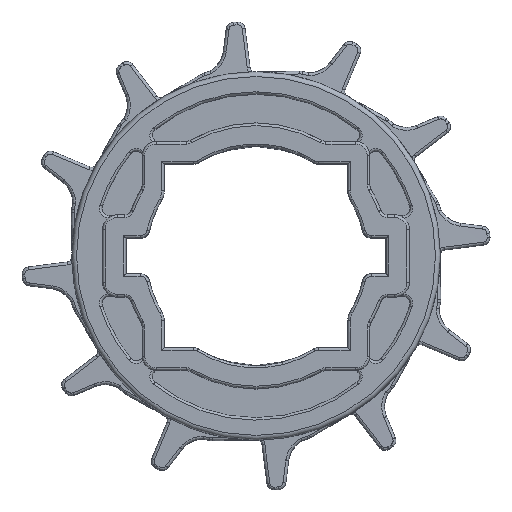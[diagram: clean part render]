
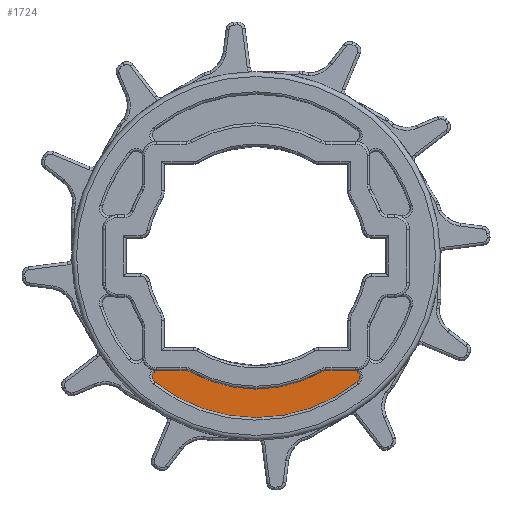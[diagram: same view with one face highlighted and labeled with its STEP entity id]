
A CAD part, top view. The second image highlights one B-rep face of the part: STEP entity #1724.
In plain terms, the highlighted planar face has unit normal (0, 0, 1).
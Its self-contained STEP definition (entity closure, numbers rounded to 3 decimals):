
#744=CIRCLE('',#15463,1.751);
#746=CIRCLE('',#15466,28.487);
#748=CIRCLE('',#15469,1.751);
#780=CIRCLE('',#15529,1.492);
#781=CIRCLE('',#15530,34.584);
#782=CIRCLE('',#15531,1.492);
#1724=ADVANCED_FACE('',(#2799),#2548,.T.);
#2548=PLANE('',#15532);
#2799=FACE_OUTER_BOUND('',#3693,.T.);
#3693=EDGE_LOOP('',(#6180,#6181,#6182,#6183,#6184,#6185,#6186,#6187));
#6180=ORIENTED_EDGE('',*,*,#12320,.T.);
#6181=ORIENTED_EDGE('',*,*,#12321,.T.);
#6182=ORIENTED_EDGE('',*,*,#12322,.F.);
#6183=ORIENTED_EDGE('',*,*,#11966,.F.);
#6184=ORIENTED_EDGE('',*,*,#12242,.F.);
#6185=ORIENTED_EDGE('',*,*,#12245,.T.);
#6186=ORIENTED_EDGE('',*,*,#12247,.F.);
#6187=ORIENTED_EDGE('',*,*,#11962,.T.);
#10454=VERTEX_POINT('',#19900);
#10455=VERTEX_POINT('',#19902);
#10458=VERTEX_POINT('',#19909);
#10459=VERTEX_POINT('',#19911);
#10663=VERTEX_POINT('',#21258);
#10665=VERTEX_POINT('',#21264);
#10708=VERTEX_POINT('',#21427);
#10709=VERTEX_POINT('',#21429);
#11962=EDGE_CURVE('',#10455,#10454,#14361,.T.);
#11966=EDGE_CURVE('',#10458,#10459,#14365,.T.);
#12242=EDGE_CURVE('',#10663,#10458,#744,.T.);
#12245=EDGE_CURVE('',#10663,#10665,#746,.T.);
#12247=EDGE_CURVE('',#10455,#10665,#748,.T.);
#12320=EDGE_CURVE('',#10454,#10708,#780,.T.);
#12321=EDGE_CURVE('',#10708,#10709,#781,.T.);
#12322=EDGE_CURVE('',#10459,#10709,#782,.T.);
#14361=LINE('',#19901,#14837);
#14365=LINE('',#19910,#14841);
#14837=VECTOR('',#16683,1.);
#14841=VECTOR('',#16689,1.);
#15463=AXIS2_PLACEMENT_3D('',#21259,#17069,#17070);
#15466=AXIS2_PLACEMENT_3D('',#21265,#17076,#17077);
#15469=AXIS2_PLACEMENT_3D('',#21268,#17082,#17083);
#15529=AXIS2_PLACEMENT_3D('',#21426,#17238,#17239);
#15530=AXIS2_PLACEMENT_3D('',#21428,#17240,#17241);
#15531=AXIS2_PLACEMENT_3D('',#21430,#17242,#17243);
#15532=AXIS2_PLACEMENT_3D('',#21431,#17244,#17245);
#16683=DIRECTION('',(-1.,0.,0.));
#16689=DIRECTION('',(1.,0.,0.));
#17069=DIRECTION('',(0.,0.,-1.));
#17070=DIRECTION('',(-1.,0.,0.));
#17076=DIRECTION('',(0.,0.,-1.));
#17077=DIRECTION('',(-1.,0.,0.));
#17082=DIRECTION('',(0.,0.,-1.));
#17083=DIRECTION('',(-1.,0.,0.));
#17238=DIRECTION('',(0.,0.,1.));
#17239=DIRECTION('',(1.,0.,0.));
#17240=DIRECTION('',(0.,0.,1.));
#17241=DIRECTION('',(1.,0.,0.));
#17242=DIRECTION('',(0.,0.,-1.));
#17243=DIRECTION('',(1.,0.,0.));
#17244=DIRECTION('',(0.,0.,1.));
#17245=DIRECTION('',(1.,0.,0.));
#19900=CARTESIAN_POINT('',(-21.419,-24.539,2.049));
#19901=CARTESIAN_POINT('',(-11.338,-24.539,2.049));
#19902=CARTESIAN_POINT('',(-14.94,-24.539,2.049));
#19909=CARTESIAN_POINT('',(14.94,-24.539,2.049));
#19910=CARTESIAN_POINT('',(11.338,-24.539,2.049));
#19911=CARTESIAN_POINT('',(21.419,-24.539,2.049));
#21258=CARTESIAN_POINT('',(14.075,-24.767,2.049));
#21259=CARTESIAN_POINT('',(14.94,-26.29,2.049));
#21264=CARTESIAN_POINT('',(-14.075,-24.767,2.049));
#21265=CARTESIAN_POINT('',(0.,0.,
2.049));
#21268=CARTESIAN_POINT('',(-14.94,-26.29,2.049));
#21426=CARTESIAN_POINT('',(-20.679,-25.835,2.049));
#21427=CARTESIAN_POINT('',(-21.612,-26.999,2.049));
#21428=CARTESIAN_POINT('',(0.,0.,
2.049));
#21429=CARTESIAN_POINT('',(21.612,-26.999,2.049));
#21430=CARTESIAN_POINT('',(20.679,-25.835,2.049));
#21431=CARTESIAN_POINT('',(0.,0.2,2.049));
